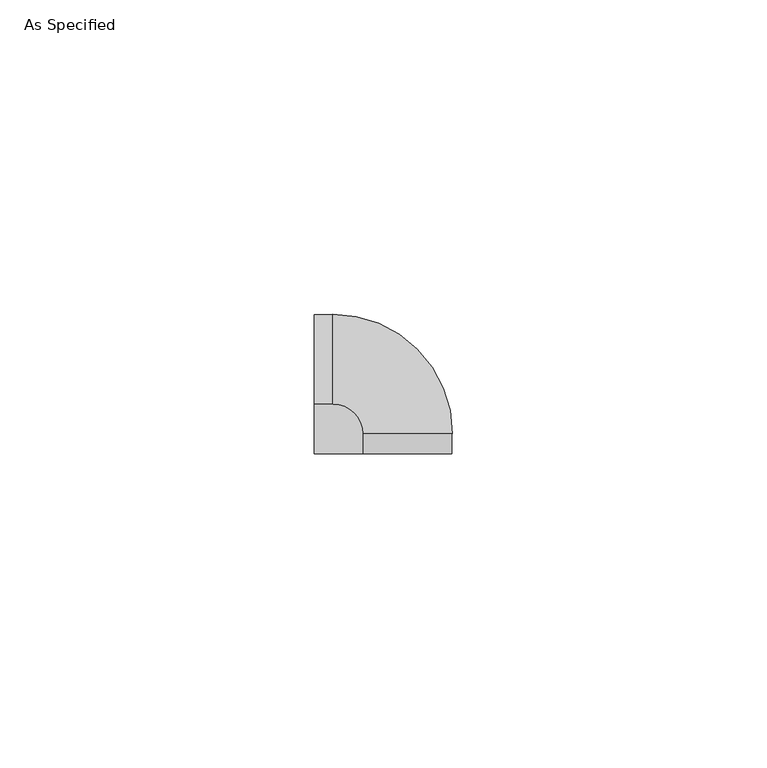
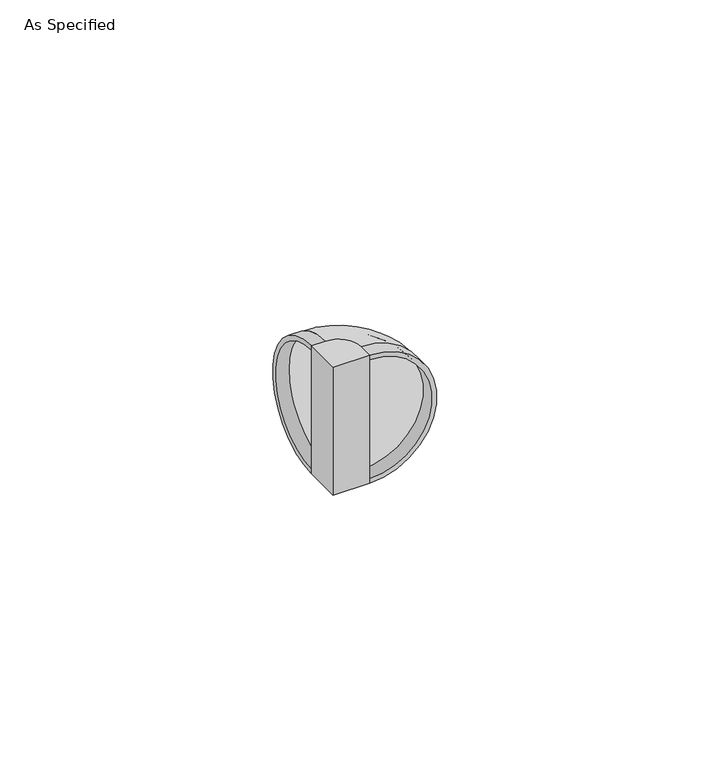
"""IFC4 building model written with IfcOpenShell, lengths in millimetres: proxy geometry, Bumper_McCue_CartGuard_1FLX_CG-10_End-Cap : As Specified."""

from ifc_helpers import new_model, si_unit, point, frame, frame_2d, origin, origin_with_axes, place, context, project, spatial, polyline, circle_curve, ellipse_curve, trimmed, segment, composite_curve, outline, extrude, source, transform, mapped, element, save
from ifc_brep_helpers import plane_surface, cylinder_surface, revolved_surface, advanced_brep


def as_specified_8612f211(model_context):
    return source(origin(), model_context, "Body", "SolidModel", [
        extrude(outline(composite_curve([segment(polyline([(7.7, 0.0), (0.0, 0.0), (0.0, 7.9), (2.973, 7.9)]), True, "CONTINUOUS"), segment(trimmed(circle_curve(frame_2d((2.973, 3.173)), 4.727), [point((2.973, 7.9))], [point((7.7, 3.173))], False, "CARTESIAN"), True, "CONTINUOUS"), segment(polyline([(7.7, 3.173), (7.7, 0.0)]), True, "CONTINUOUS")], self_intersect=False)), origin_with_axes(), (0.0, 0.0, 1.0), 28.6),
        advanced_brep(
        [(7.7, 0.0, 0.0), (7.7, 0.0, 28.6), (7.7, 0.0, 27.6), (7.7, 0.0, 1.0), (7.7, 3.173, 0.0), (7.7, 3.173, 28.6), (7.7, 3.173, 27.6), (7.7, 3.173, 1.0), (2.973, 7.9, 0.0), (2.973, 7.9, 28.6), (2.973, 7.9, 27.6), (2.973, 7.9, 1.0), (0.0, 7.9, 0.0), (0.0, 7.9, 1.0), (0.0, 7.9, 27.6), (0.0, 7.9, 28.6)],
        [
            (0, 1, circle_curve(frame((7.7, 0.0, 14.3), z_axis=(0.0, -1.0, 0.0), x_axis=(-1.0, 0.0, 0.0)), 14.3)),
            (1, 2),
            (2, 3, circle_curve(frame((7.7, 0.0, 14.3), z_axis=(0.0, 1.0, 0.0), x_axis=(-1.0, 0.0, 0.0)), 13.3)),
            (3, 0),
            (0, 4),
            (4, 5, circle_curve(frame((7.7, 3.173, 14.3), z_axis=(0.0, -1.0, 0.0), x_axis=(-1.0, 0.0, 0.0)), 14.3)),
            (5, 1),
            (5, 6),
            (6, 2),
            (6, 7, circle_curve(frame((7.7, 3.173, 14.3), z_axis=(0.0, 1.0, 0.0), x_axis=(-1.0, 0.0, 0.0)), 13.3)),
            (7, 3),
            (7, 4),
            (8, 9, circle_curve(frame((2.973, 7.9, 14.3), z_axis=(1.0, 0.0, 0.0), x_axis=(0.0, -1.0, 0.0)), 14.3)),
            (9, 5, circle_curve(frame((2.973, 3.173, 28.6), z_axis=(0.0, 0.0, -1.0), x_axis=(1.0, 0.0, 0.0)), 4.727)),
            (4, 8, circle_curve(frame((2.973, 3.173, 0.0), z_axis=(0.0, 0.0, 1.0), x_axis=(1.0, 0.0, 0.0)), 4.727)),
            (9, 10),
            (10, 6, circle_curve(frame((2.973, 3.173, 27.6), z_axis=(0.0, 0.0, -1.0), x_axis=(1.0, 0.0, 0.0)), 4.727)),
            (10, 11, circle_curve(frame((2.973, 7.9, 14.3), z_axis=(-1.0, 0.0, 0.0), x_axis=(0.0, -1.0, 0.0)), 13.3)),
            (11, 7, circle_curve(frame((2.973, 3.173, 1.0), z_axis=(0.0, 0.0, -1.0), x_axis=(1.0, 0.0, 0.0)), 4.727)),
            (11, 8),
            (12, 13),
            (13, 14, circle_curve(frame((0.0, 7.9, 14.3), z_axis=(1.0, 0.0, 0.0), x_axis=(0.0, -1.0, 0.0)), 13.3)),
            (14, 15),
            (15, 12, circle_curve(frame((0.0, 7.9, 14.3), z_axis=(-1.0, 0.0, 0.0), x_axis=(0.0, -1.0, 0.0)), 14.3)),
            (8, 12),
            (15, 9),
            (14, 10),
            (13, 11),
        ],
        [
            plane_surface(frame((22.0, 0.0, 28.6), z_axis=(0.0, -1.0, 0.0), x_axis=(0.0, 0.0, 1.0))),
            cylinder_surface(frame((7.7, 0.0, 14.3), z_axis=(0.0, -1.0, 0.0), x_axis=(-1.0, 0.0, 0.0)), 14.3),
            plane_surface(frame((7.7, 0.0, 27.6), z_axis=(-1.0, 0.0, 0.0), x_axis=(0.0, 1.0, 0.0))),
            revolved_surface(polyline([(-5.6000000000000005, 3.173, 14.3), (-5.6000000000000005, 0.0, 14.3)]), (7.7, 0.0, 14.3), (0.0, 1.0, 0.0)),
            plane_surface(frame((7.7, 0.0, 0.0), z_axis=(-1.0, 0.0, 0.0), x_axis=(0.0, 1.0, 0.0))),
            revolved_surface(trimmed(ellipse_curve(frame((7.7, 3.173, 14.3), z_axis=(0.0, 1.0, 0.0), x_axis=(-1.0, 0.0, 0.0)), 14.3, 14.3), [point((7.7, 3.173, 28.6))], [point((7.7, 3.173, 0.0))], True, "CARTESIAN"), (2.973, 3.173, 28.6), (0.0, 0.0, -1.0)),
            revolved_surface(polyline([(7.7, 3.173, 27.6), (7.7, 3.173, 28.6)]), (2.973, 3.173, 28.6), (0.0, 0.0, -1.0)),
            revolved_surface(trimmed(ellipse_curve(frame((7.7, 3.173, 14.3), z_axis=(0.0, -1.0, 0.0), x_axis=(-1.0, 0.0, 0.0)), 13.3, 13.3), [point((7.7, 3.173, 1.0))], [point((7.7, 3.173, 27.6))], True, "CARTESIAN"), (2.973, 3.173, 28.6), (0.0, 0.0, -1.0)),
            revolved_surface(polyline([(7.7, 3.173, 0.0), (7.7, 3.173, 1.0)]), (2.973, 3.173, 28.6), (0.0, 0.0, -1.0)),
            plane_surface(frame((0.0, 22.2, 28.6), z_axis=(-1.0, 0.0, 0.0), x_axis=(0.0, 0.0, 1.0))),
            cylinder_surface(frame((2.973, 7.9, 14.3), z_axis=(1.0, 0.0, 0.0), x_axis=(0.0, -1.0, 0.0)), 14.3),
            plane_surface(frame((2.973, 7.9, 27.6), z_axis=(0.0, -1.0, 0.0), x_axis=(-1.0, 0.0, 0.0))),
            revolved_surface(polyline([(0.0, -5.4, 14.3), (2.973, -5.4, 14.3)]), (2.973, 7.9, 14.3), (-1.0, 0.0, 0.0)),
            plane_surface(frame((2.973, 7.9, 0.0), z_axis=(0.0, -1.0, 0.0), x_axis=(-1.0, 0.0, 0.0))),
        ],
        [
            (0, [[1, 2, 3, 4]]),
            (1, [[5, 6, 7, -1]]),
            (2, [[-7, 8, 9, -2]]),
            (3, [[-9, 10, 11, -3]]),
            (4, [[-11, 12, -5, -4]]),
            (5, [[13, 14, -6, 15]]),
            (6, [[16, 17, -8, -14]]),
            (7, [[18, 19, -10, -17]]),
            (8, [[20, -15, -12, -19]]),
            (9, [[21, 22, 23, 24]]),
            (10, [[25, -24, 26, -13]]),
            (11, [[-26, -23, 27, -16]]),
            (12, [[-27, -22, 28, -18]]),
            (13, [[-28, -21, -25, -20]]),
        ],
    ),
    ])


if __name__ == "__main__":
    model = new_model("IFC4")
    model_context = context("Model", 3, world=origin())
    ifc_project = project(units=[si_unit("LENGTHUNIT", "METRE", prefix="MILLI")], contexts=[model_context])
    site = spatial("IfcSite", under=ifc_project)
    building = spatial("IfcBuilding", under=site)
    placement = place(None, origin())
    as_specified_shape = as_specified_8612f211(model_context)
    element("IfcBuildingElementProxy", 1, Name="Bumper_McCue_CartGuard_1FLX_CG-10_End-Cap : As Specified", ObjectType="Bumper_McCue_CartGuard_1FLX_CG-10_End-Cap : As Specified", at=placement, inside=building, context=model_context, shape_type="MappedRepresentation", body=[
        mapped(as_specified_shape, transform((0.0, 0.0, 0.0), x_axis=(1.0, 0.0, 0.0), y_axis=(0.0, 1.0, 0.0), z_axis=(0.0, 0.0, 1.0))),
    ])
    save(model, "model.ifc")
